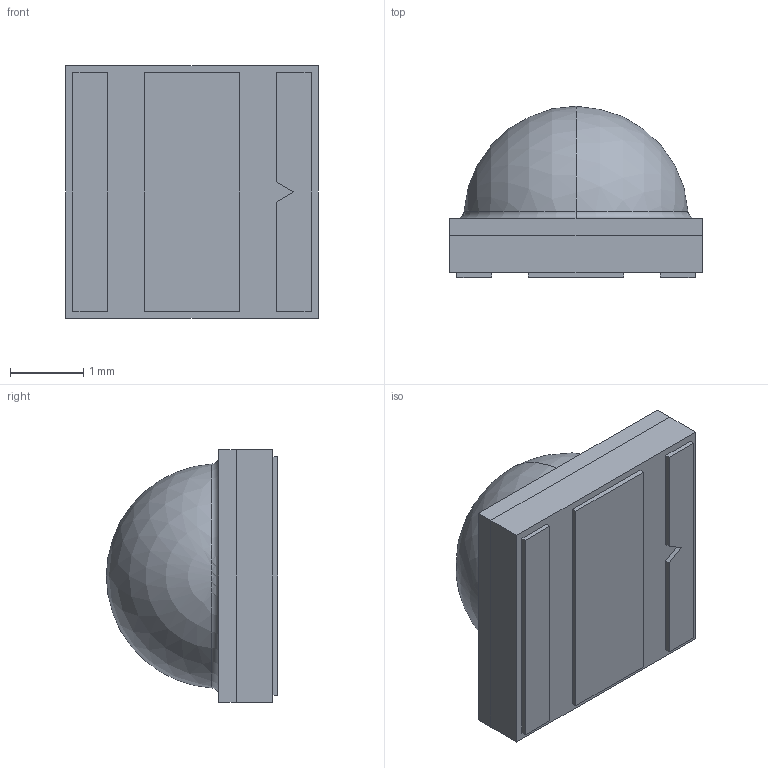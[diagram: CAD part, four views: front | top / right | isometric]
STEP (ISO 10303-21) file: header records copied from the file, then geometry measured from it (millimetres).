
FILE_DESCRIPTION (( 'STEP AP203' ), '1' );
FILE_NAME ('TF1&TF2&TG2-ÖÐÐÔ°×.STEP', '2024-01-18T06:42:36', ( '' ), ( '' ), 'SwSTEP 2.0', 'SolidWorks 2016', '' );
FILE_SCHEMA (( 'CONFIG_CONTROL_DESIGN' ));
Length unit declared in the file: millimetre
Products named in the file (1): TF1&TF2&TG2-笢俶啞
Bounding box: 3.45 x 2.33 x 3.45 mm (x, y, z)
Volume: 16.8 mm3; surface area: 66.4 mm2
Topology: 2 solids, 2 shells, 34 faces, 77 edges, 51 vertices
Faces by surface type: plane 30, torus 2, sphere 2
Entity records: 1016 total; most frequent: CARTESIAN_POINT 163, DIRECTION 155, ORIENTED_EDGE 154, EDGE_CURVE 77, VECTOR 69, LINE 69, VERTEX_POINT 51, AXIS2_PLACEMENT_3D 43
